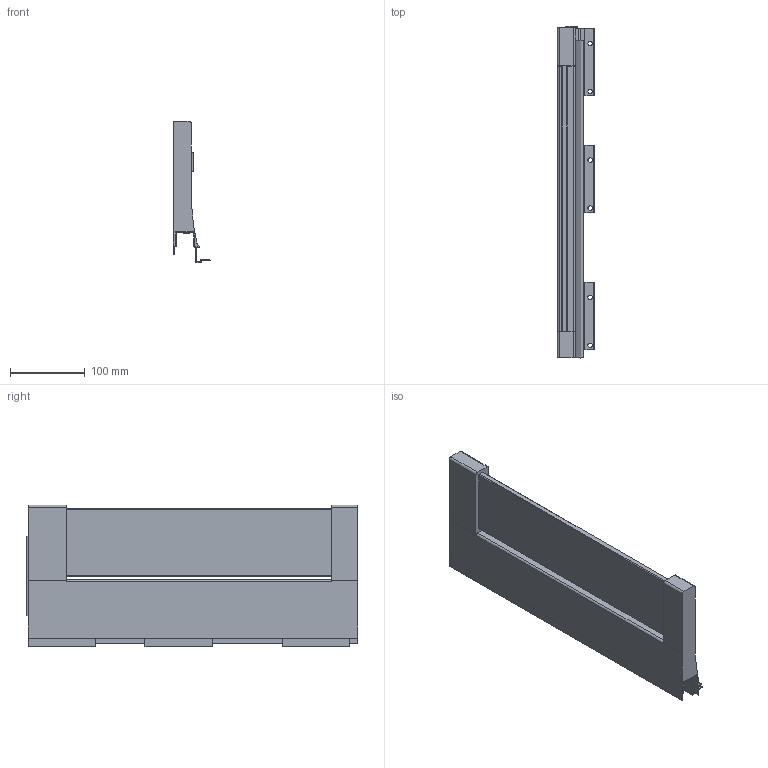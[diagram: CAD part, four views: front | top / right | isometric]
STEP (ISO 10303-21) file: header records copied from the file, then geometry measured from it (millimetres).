
FILE_DESCRIPTION (( 'STEP AP214' ), '1' );
FILE_NAME ('_XP Agantis Dekorseite H95 NL450 LI Top Glashalter.step', '2010-07-08T06:15:53', ( 'grass' ), ( '' ), 'SwSTEP 2.0', 'SolidWorks 2010', '' );
FILE_SCHEMA (( 'AUTOMOTIVE_DESIGN' ));
Length unit declared in the file: millimetre
Products named in the file (1): _XP Agantis Dekorseite H95 NL450 LI  Top Glashalter
Bounding box: 50.11 x 442.6 x 188.7 mm (x, y, z)
Volume: 1079096.9 mm3; surface area: 244451.9 mm2
Topology: 1 solids, 1 shells, 162 faces, 476 edges, 311 vertices
Faces by surface type: plane 131, cylinder 31
Entity records: 5386 total; most frequent: ORIENTED_EDGE 952, CARTESIAN_POINT 950, DIRECTION 866, EDGE_CURVE 476, LINE 412, VECTOR 412, VERTEX_POINT 311, AXIS2_PLACEMENT_3D 227
